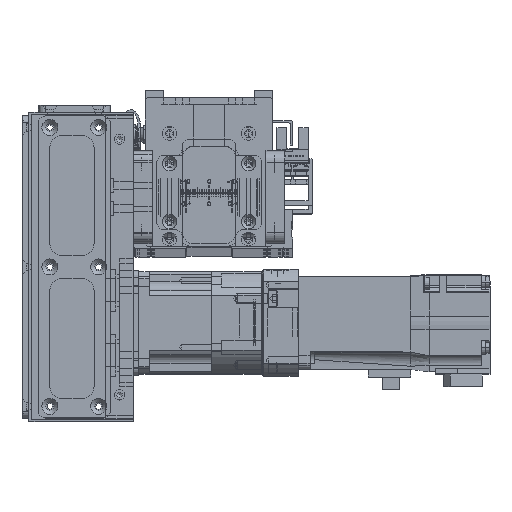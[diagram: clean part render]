
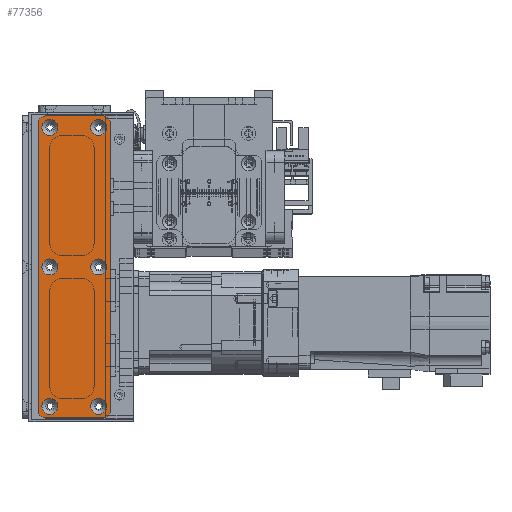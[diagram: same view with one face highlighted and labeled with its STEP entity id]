
A CAD part, top view. The second image highlights one B-rep face of the part: STEP entity #77356.
In plain terms, the highlighted planar face has unit normal (0, 0, 1).
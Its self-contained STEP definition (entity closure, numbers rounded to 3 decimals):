
#1922=FACE_BOUND('',#13356,.T.);
#1923=FACE_BOUND('',#13357,.T.);
#1924=FACE_BOUND('',#13358,.T.);
#1925=FACE_BOUND('',#13359,.T.);
#1926=FACE_BOUND('',#13360,.T.);
#1927=FACE_BOUND('',#13361,.T.);
#4574=PLANE('',#85158);
#8603=FACE_OUTER_BOUND('',#13355,.T.);
#13355=EDGE_LOOP('',(#72255,#72256,#72257,#72258,#72259,#72260,#72261,#72262));
#13356=EDGE_LOOP('',(#72263));
#13357=EDGE_LOOP('',(#72264));
#13358=EDGE_LOOP('',(#72265));
#13359=EDGE_LOOP('',(#72266));
#13360=EDGE_LOOP('',(#72267));
#13361=EDGE_LOOP('',(#72268));
#16549=CIRCLE('',#85112,3.45);
#16552=CIRCLE('',#85117,3.45);
#16555=CIRCLE('',#85122,3.45);
#16558=CIRCLE('',#85127,3.45);
#16561=CIRCLE('',#85132,3.45);
#16564=CIRCLE('',#85137,3.45);
#16571=CIRCLE('',#85147,3.);
#16572=CIRCLE('',#85150,3.);
#16573=CIRCLE('',#85153,3.);
#16574=CIRCLE('',#85156,3.);
#24277=LINE('',#134013,#31989);
#24280=LINE('',#134021,#31992);
#24283=LINE('',#134029,#31995);
#24286=LINE('',#134036,#31998);
#31989=VECTOR('',#106712,10.);
#31992=VECTOR('',#106721,10.);
#31995=VECTOR('',#106730,10.);
#31998=VECTOR('',#106739,10.);
#39208=VERTEX_POINT('',#133929);
#39211=VERTEX_POINT('',#133939);
#39214=VERTEX_POINT('',#133949);
#39217=VERTEX_POINT('',#133959);
#39220=VERTEX_POINT('',#133969);
#39223=VERTEX_POINT('',#133979);
#39234=VERTEX_POINT('',#134006);
#39235=VERTEX_POINT('',#134008);
#39236=VERTEX_POINT('',#134012);
#39237=VERTEX_POINT('',#134016);
#39238=VERTEX_POINT('',#134020);
#39239=VERTEX_POINT('',#134024);
#39240=VERTEX_POINT('',#134028);
#39241=VERTEX_POINT('',#134032);
#50197=EDGE_CURVE('',#39208,#39208,#16549,.T.);
#50202=EDGE_CURVE('',#39211,#39211,#16552,.T.);
#50207=EDGE_CURVE('',#39214,#39214,#16555,.T.);
#50212=EDGE_CURVE('',#39217,#39217,#16558,.T.);
#50217=EDGE_CURVE('',#39220,#39220,#16561,.T.);
#50222=EDGE_CURVE('',#39223,#39223,#16564,.T.);
#50236=EDGE_CURVE('',#39235,#39234,#16571,.T.);
#50238=EDGE_CURVE('',#39236,#39235,#24277,.T.);
#50240=EDGE_CURVE('',#39237,#39236,#16572,.T.);
#50242=EDGE_CURVE('',#39238,#39237,#24280,.T.);
#50244=EDGE_CURVE('',#39239,#39238,#16573,.T.);
#50246=EDGE_CURVE('',#39240,#39239,#24283,.T.);
#50248=EDGE_CURVE('',#39241,#39240,#16574,.T.);
#50250=EDGE_CURVE('',#39234,#39241,#24286,.T.);
#72255=ORIENTED_EDGE('',*,*,#50250,.T.);
#72256=ORIENTED_EDGE('',*,*,#50248,.T.);
#72257=ORIENTED_EDGE('',*,*,#50246,.T.);
#72258=ORIENTED_EDGE('',*,*,#50244,.T.);
#72259=ORIENTED_EDGE('',*,*,#50242,.T.);
#72260=ORIENTED_EDGE('',*,*,#50240,.T.);
#72261=ORIENTED_EDGE('',*,*,#50238,.T.);
#72262=ORIENTED_EDGE('',*,*,#50236,.T.);
#72263=ORIENTED_EDGE('',*,*,#50197,.T.);
#72264=ORIENTED_EDGE('',*,*,#50202,.T.);
#72265=ORIENTED_EDGE('',*,*,#50207,.T.);
#72266=ORIENTED_EDGE('',*,*,#50212,.T.);
#72267=ORIENTED_EDGE('',*,*,#50217,.T.);
#72268=ORIENTED_EDGE('',*,*,#50222,.T.);
#77356=ADVANCED_FACE('',(#8603,#1922,#1923,#1924,#1925,#1926,#1927),#4574,
 .T.);
#85112=AXIS2_PLACEMENT_3D('',#133930,#106620,#106621);
#85117=AXIS2_PLACEMENT_3D('',#133940,#106632,#106633);
#85122=AXIS2_PLACEMENT_3D('',#133950,#106644,#106645);
#85127=AXIS2_PLACEMENT_3D('',#133960,#106656,#106657);
#85132=AXIS2_PLACEMENT_3D('',#133970,#106668,#106669);
#85137=AXIS2_PLACEMENT_3D('',#133980,#106680,#106681);
#85147=AXIS2_PLACEMENT_3D('',#134009,#106707,#106708);
#85150=AXIS2_PLACEMENT_3D('',#134017,#106716,#106717);
#85153=AXIS2_PLACEMENT_3D('',#134025,#106725,#106726);
#85156=AXIS2_PLACEMENT_3D('',#134033,#106734,#106735);
#85158=AXIS2_PLACEMENT_3D('',#134037,#106740,#106741);
#106620=DIRECTION('center_axis',(0.,0.,-1.));
#106621=DIRECTION('ref_axis',(1.,0.,0.));
#106632=DIRECTION('center_axis',(0.,0.,-1.));
#106633=DIRECTION('ref_axis',(1.,0.,0.));
#106644=DIRECTION('center_axis',(0.,0.,-1.));
#106645=DIRECTION('ref_axis',(1.,0.,0.));
#106656=DIRECTION('center_axis',(0.,0.,-1.));
#106657=DIRECTION('ref_axis',(1.,0.,0.));
#106668=DIRECTION('center_axis',(0.,0.,-1.));
#106669=DIRECTION('ref_axis',(1.,0.,0.));
#106680=DIRECTION('center_axis',(0.,0.,-1.));
#106681=DIRECTION('ref_axis',(1.,0.,0.));
#106707=DIRECTION('center_axis',(0.,0.,1.));
#106708=DIRECTION('ref_axis',(0.,1.,0.));
#106712=DIRECTION('',(-1.,0.,0.));
#106716=DIRECTION('center_axis',(0.,0.,1.));
#106717=DIRECTION('ref_axis',(1.,0.,0.));
#106721=DIRECTION('',(0.,1.,0.));
#106725=DIRECTION('center_axis',(0.,0.,1.));
#106726=DIRECTION('ref_axis',(0.,-1.,0.));
#106730=DIRECTION('',(1.,0.,0.));
#106734=DIRECTION('center_axis',(0.,0.,1.));
#106735=DIRECTION('ref_axis',(-1.,0.,0.));
#106739=DIRECTION('',(0.,-1.,0.));
#106740=DIRECTION('center_axis',(0.,0.,1.));
#106741=DIRECTION('ref_axis',(1.,0.,0.));
#133929=CARTESIAN_POINT('',(-3.45,10.5,1.5));
#133930=CARTESIAN_POINT('Origin',(0.,10.5,1.5));
#133939=CARTESIAN_POINT('',(56.55,-10.5,1.5));
#133940=CARTESIAN_POINT('Origin',(60.,-10.5,1.5));
#133949=CARTESIAN_POINT('',(-63.45,10.5,1.5));
#133950=CARTESIAN_POINT('Origin',(-60.,10.5,1.5));
#133959=CARTESIAN_POINT('',(56.55,10.5,1.5));
#133960=CARTESIAN_POINT('Origin',(60.,10.5,1.5));
#133969=CARTESIAN_POINT('',(-63.45,-10.5,1.5));
#133970=CARTESIAN_POINT('Origin',(-60.,-10.5,1.5));
#133979=CARTESIAN_POINT('',(-3.45,-10.5,1.5));
#133980=CARTESIAN_POINT('Origin',(0.,-10.5,1.5));
#134006=CARTESIAN_POINT('',(-65.,12.5,1.5));
#134008=CARTESIAN_POINT('',(-62.,15.5,1.5));
#134009=CARTESIAN_POINT('Origin',(-62.,12.5,1.5));
#134012=CARTESIAN_POINT('',(62.,15.5,1.5));
#134013=CARTESIAN_POINT('',(62.,15.5,1.5));
#134016=CARTESIAN_POINT('',(65.,12.5,1.5));
#134017=CARTESIAN_POINT('Origin',(62.,12.5,1.5));
#134020=CARTESIAN_POINT('',(65.,-12.5,1.5));
#134021=CARTESIAN_POINT('',(65.,-12.5,1.5));
#134024=CARTESIAN_POINT('',(62.,-15.5,1.5));
#134025=CARTESIAN_POINT('Origin',(62.,-12.5,1.5));
#134028=CARTESIAN_POINT('',(-62.,-15.5,1.5));
#134029=CARTESIAN_POINT('',(-62.,-15.5,1.5));
#134032=CARTESIAN_POINT('',(-65.,-12.5,1.5));
#134033=CARTESIAN_POINT('Origin',(-62.,-12.5,1.5));
#134036=CARTESIAN_POINT('',(-65.,12.5,1.5));
#134037=CARTESIAN_POINT('Origin',(0.,0.,
1.5));
